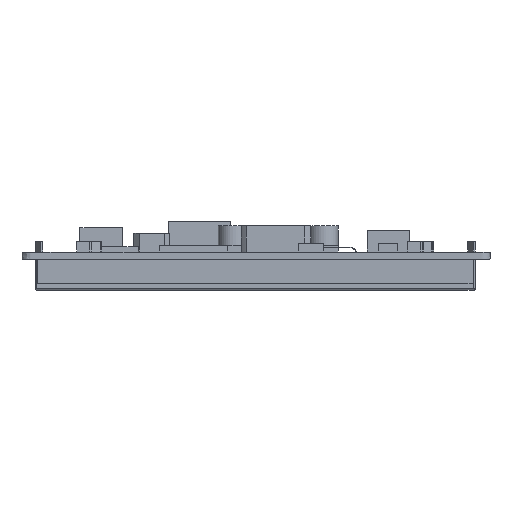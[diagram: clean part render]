
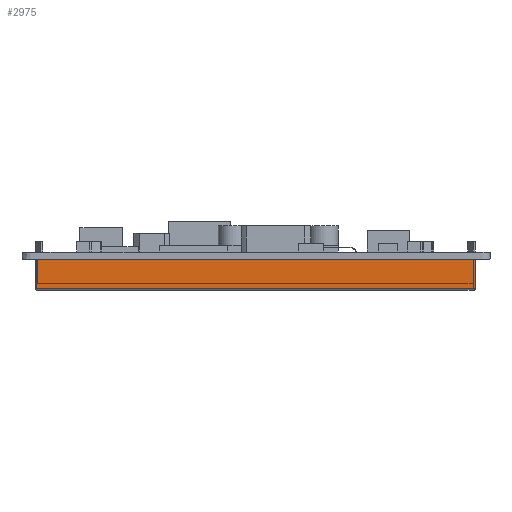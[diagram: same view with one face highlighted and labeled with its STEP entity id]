
A CAD part, left-side view. The second image highlights one B-rep face of the part: STEP entity #2975.
In plain terms, the highlighted planar face has unit normal (-1, 0, 0).
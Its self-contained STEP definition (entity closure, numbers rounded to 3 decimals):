
#2975=ADVANCED_FACE('',(#6700),#4841,.F.);
#4841=PLANE('',#38946);
#6700=FACE_OUTER_BOUND('',#8717,.T.);
#8717=EDGE_LOOP('',(#18113,#18114,#18115,#18116));
#18113=ORIENTED_EDGE('',*,*,#26372,.F.);
#18114=ORIENTED_EDGE('',*,*,#26373,.T.);
#18115=ORIENTED_EDGE('',*,*,#26374,.T.);
#18116=ORIENTED_EDGE('',*,*,#26375,.T.);
#21567=VERTEX_POINT('',#58496);
#21568=VERTEX_POINT('',#58497);
#21569=VERTEX_POINT('',#58499);
#21570=VERTEX_POINT('',#58501);
#26372=EDGE_CURVE('',#21567,#21568,#31704,.T.);
#26373=EDGE_CURVE('',#21567,#21569,#31705,.T.);
#26374=EDGE_CURVE('',#21569,#21570,#31706,.T.);
#26375=EDGE_CURVE('',#21570,#21568,#31707,.T.);
#31704=LINE('',#58495,#36449);
#31705=LINE('',#58498,#36450);
#31706=LINE('',#58500,#36451);
#31707=LINE('',#58502,#36452);
#36449=VECTOR('',#47312,1.);
#36450=VECTOR('',#47313,1.);
#36451=VECTOR('',#47314,1.);
#36452=VECTOR('',#47315,1.);
#38946=AXIS2_PLACEMENT_3D('',#58503,#47316,#47317);
#47312=DIRECTION('',(0.,0.,1.));
#47313=DIRECTION('',(0.,-1.,0.));
#47314=DIRECTION('',(0.,0.,1.));
#47315=DIRECTION('',(0.,1.,0.));
#47316=DIRECTION('',(1.,0.,0.));
#47317=DIRECTION('',(0.,0.,-1.));
#58495=CARTESIAN_POINT('',(173.525,30.57,-8.8));
#58496=CARTESIAN_POINT('',(173.525,30.57,-8.3));
#58497=CARTESIAN_POINT('',(173.525,30.57,-1.6));
#58498=CARTESIAN_POINT('',(173.525,-70.43,-8.3));
#58499=CARTESIAN_POINT('',(173.525,-70.43,-8.3));
#58500=CARTESIAN_POINT('',(173.525,-70.43,-8.8));
#58501=CARTESIAN_POINT('',(173.525,-70.43,-1.6));
#58502=CARTESIAN_POINT('',(173.525,-70.43,-1.6));
#58503=CARTESIAN_POINT('',(173.525,-70.43,-8.8));
